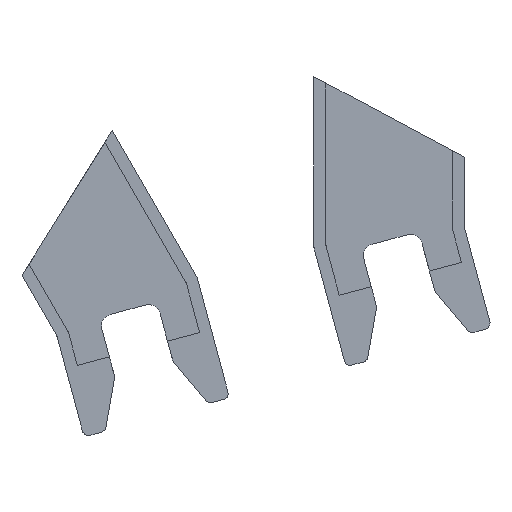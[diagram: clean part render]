
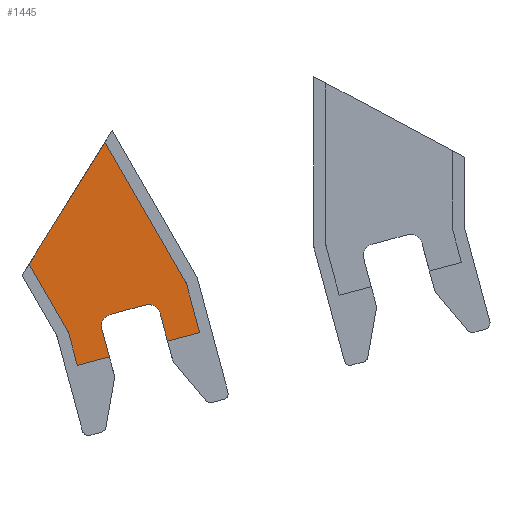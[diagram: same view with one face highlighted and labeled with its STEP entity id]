
A CAD part, front view. The second image highlights one B-rep face of the part: STEP entity #1445.
In plain terms, the highlighted planar face has unit normal (0, -1, 0).
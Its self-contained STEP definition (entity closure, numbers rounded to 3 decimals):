
#13 = LINE ( 'NONE', #1622, #1754 ) ;
#14 = LINE ( 'NONE', #745, #492 ) ;
#30 = CARTESIAN_POINT ( 'NONE',  ( -97.223, 0., -44.142 ) ) ;
#49 = DIRECTION ( 'NONE',  ( 0., 1., 0. ) ) ;
#50 = ORIENTED_EDGE ( 'NONE', *, *, #1344, .F. ) ;
#54 = DIRECTION ( 'NONE',  ( 0., -1., 0. ) ) ;
#100 = VERTEX_POINT ( 'NONE', #252 ) ;
#165 = VERTEX_POINT ( 'NONE', #1127 ) ;
#170 = VECTOR ( 'NONE', #1184, 1000. ) ;
#188 = EDGE_CURVE ( 'NONE', #603, #2137, #1066, .T. ) ;
#241 = LINE ( 'NONE', #472, #2150 ) ;
#252 = CARTESIAN_POINT ( 'NONE',  ( -92.148, 0., -34.104 ) ) ;
#276 = CARTESIAN_POINT ( 'NONE',  ( -93.114, 0., -34.362 ) ) ;
#282 = VERTEX_POINT ( 'NONE', #1970 ) ;
#326 = EDGE_LOOP ( 'NONE', ( #1001, #2156, #906, #614, #912, #440, #1083, #664, #2335, #375, #50, #1498, #1310, #1642 ) ) ;
#334 = CARTESIAN_POINT ( 'NONE',  ( -98.452, 0., -39.554 ) ) ;
#348 = LINE ( 'NONE', #1847, #1506 ) ;
#375 = ORIENTED_EDGE ( 'NONE', *, *, #1752, .F. ) ;
#395 = CARTESIAN_POINT ( 'NONE',  ( -97.223, 0., -44.142 ) ) ;
#398 = VERTEX_POINT ( 'NONE', #1108 ) ;
#418 = VERTEX_POINT ( 'NONE', #585 ) ;
#434 = EDGE_CURVE ( 'NONE', #282, #2137, #1500, .T. ) ;
#440 = ORIENTED_EDGE ( 'NONE', *, *, #188, .T. ) ;
#450 = CIRCLE ( 'NONE', #1501, 1. ) ;
#471 = EDGE_CURVE ( 'NONE', #2019, #165, #14, .T. ) ;
#472 = CARTESIAN_POINT ( 'NONE',  ( -105.682, 0., -10.594 ) ) ;
#492 = VECTOR ( 'NONE', #1859, 1000. ) ;
#585 = CARTESIAN_POINT ( 'NONE',  ( -95.291, 0., -43.624 ) ) ;
#603 = VERTEX_POINT ( 'NONE', #2082 ) ;
#608 = CARTESIAN_POINT ( 'NONE',  ( -98.452, 0., -39.554 ) ) ;
#610 = CARTESIAN_POINT ( 'NONE',  ( -105.682, 0., -10.594 ) ) ;
#613 = VECTOR ( 'NONE', #1867, 1000. ) ;
#614 = ORIENTED_EDGE ( 'NONE', *, *, #2313, .F. ) ;
#619 = EDGE_CURVE ( 'NONE', #100, #1522, #450, .T. ) ;
#624 = EDGE_CURVE ( 'NONE', #1973, #1522, #2263, .T. ) ;
#637 = CARTESIAN_POINT ( 'NONE',  ( -106.18, 0., -41.624 ) ) ;
#664 = ORIENTED_EDGE ( 'NONE', *, *, #1892, .F. ) ;
#679 = EDGE_CURVE ( 'NONE', #1495, #398, #1878, .T. ) ;
#737 = AXIS2_PLACEMENT_3D ( 'NONE', #2235, #49, #2054 ) ;
#745 = CARTESIAN_POINT ( 'NONE',  ( -106.18, 0., -41.624 ) ) ;
#748 = CARTESIAN_POINT ( 'NONE',  ( -104.765, 0., -39.175 ) ) ;
#753 = VECTOR ( 'NONE', #1870, 1000. ) ;
#761 = CARTESIAN_POINT ( 'NONE',  ( -111.751, 0., -42.082 ) ) ;
#763 = DIRECTION ( 'NONE',  ( -0.966, 0., -0.259 ) ) ;
#904 = DIRECTION ( 'NONE',  ( -0.5, 0., 0.866 ) ) ;
#906 = ORIENTED_EDGE ( 'NONE', *, *, #624, .F. ) ;
#912 = ORIENTED_EDGE ( 'NONE', *, *, #1967, .F. ) ;
#920 = VERTEX_POINT ( 'NONE', #2201 ) ;
#936 = CARTESIAN_POINT ( 'NONE',  ( -111.717, 0., -42.209 ) ) ;
#959 = CARTESIAN_POINT ( 'NONE',  ( -96.52, 0., -39.036 ) ) ;
#963 = LINE ( 'NONE', #395, #1129 ) ;
#988 = FACE_OUTER_BOUND ( 'NONE', #326, .T. ) ;
#1001 = ORIENTED_EDGE ( 'NONE', *, *, #2143, .F. ) ;
#1009 = CARTESIAN_POINT ( 'NONE',  ( -118.251, 0., -30.824 ) ) ;
#1041 = CIRCLE ( 'NONE', #1849, 2. ) ;
#1054 = EDGE_CURVE ( 'NONE', #418, #1495, #1436, .T. ) ;
#1066 = CIRCLE ( 'NONE', #737, 1. ) ;
#1083 = ORIENTED_EDGE ( 'NONE', *, *, #434, .F. ) ;
#1108 = CARTESIAN_POINT ( 'NONE',  ( -98.97, 0., -37.622 ) ) ;
#1127 = CARTESIAN_POINT ( 'NONE',  ( -104.95, 0., -46.213 ) ) ;
#1129 = VECTOR ( 'NONE', #763, 1000. ) ;
#1158 = DIRECTION ( 'NONE',  ( 0.5, 0., -0.866 ) ) ;
#1184 = DIRECTION ( 'NONE',  ( 0.5, 0., -0.866 ) ) ;
#1195 = DIRECTION ( 'NONE',  ( 0.528, 0., 0.849 ) ) ;
#1282 = CARTESIAN_POINT ( 'NONE',  ( -104.248, 0., -41.107 ) ) ;
#1310 = ORIENTED_EDGE ( 'NONE', *, *, #1054, .F. ) ;
#1334 = EDGE_CURVE ( 'NONE', #920, #418, #2036, .T. ) ;
#1340 = CARTESIAN_POINT ( 'NONE',  ( -92.248, 0., -33.862 ) ) ;
#1344 = EDGE_CURVE ( 'NONE', #398, #1822, #13, .T. ) ;
#1378 = AXIS2_PLACEMENT_3D ( 'NONE', #608, #54, #1158 ) ;
#1436 = LINE ( 'NONE', #1469, #1787 ) ;
#1445 = ADVANCED_FACE ( 'NONE', ( #988 ), #1896, .T. ) ;
#1464 = VECTOR ( 'NONE', #1636, 1000. ) ;
#1469 = CARTESIAN_POINT ( 'NONE',  ( -96.52, 0., -39.036 ) ) ;
#1495 = VERTEX_POINT ( 'NONE', #959 ) ;
#1498 = ORIENTED_EDGE ( 'NONE', *, *, #679, .F. ) ;
#1500 = LINE ( 'NONE', #761, #613 ) ;
#1501 = AXIS2_PLACEMENT_3D ( 'NONE', #276, #1712, #1538 ) ;
#1506 = VECTOR ( 'NONE', #2195, 1000. ) ;
#1522 = VERTEX_POINT ( 'NONE', #1340 ) ;
#1538 = DIRECTION ( 'NONE',  ( 0.5, 0., -0.866 ) ) ;
#1619 = DIRECTION ( 'NONE',  ( 0., -1., 0. ) ) ;
#1622 = CARTESIAN_POINT ( 'NONE',  ( -98.97, 0., -37.622 ) ) ;
#1636 = DIRECTION ( 'NONE',  ( -0.966, 0., -0.259 ) ) ;
#1642 = ORIENTED_EDGE ( 'NONE', *, *, #1334, .F. ) ;
#1697 = LINE ( 'NONE', #2083, #753 ) ;
#1712 = DIRECTION ( 'NONE',  ( 0., -1., 0. ) ) ;
#1735 = DIRECTION ( 'NONE',  ( 0., -1., 0. ) ) ;
#1752 = EDGE_CURVE ( 'NONE', #1822, #2019, #1041, .T. ) ;
#1754 = VECTOR ( 'NONE', #2023, 1000. ) ;
#1787 = VECTOR ( 'NONE', #1959, 1000. ) ;
#1795 = AXIS2_PLACEMENT_3D ( 'NONE', #334, #1735, #2296 ) ;
#1822 = VERTEX_POINT ( 'NONE', #748 ) ;
#1847 = CARTESIAN_POINT ( 'NONE',  ( -92.182, 0., -33.976 ) ) ;
#1849 = AXIS2_PLACEMENT_3D ( 'NONE', #1282, #1619, #904 ) ;
#1859 = DIRECTION ( 'NONE',  ( 0.259, 0., -0.966 ) ) ;
#1867 = DIRECTION ( 'NONE',  ( -0.259, 0., 0.966 ) ) ;
#1870 = DIRECTION ( 'NONE',  ( -0.5, 0., 0.866 ) ) ;
#1878 = CIRCLE ( 'NONE', #1795, 2. ) ;
#1892 = EDGE_CURVE ( 'NONE', #165, #282, #963, .T. ) ;
#1896 = PLANE ( 'NONE',  #1378 ) ;
#1959 = DIRECTION ( 'NONE',  ( -0.259, 0., 0.966 ) ) ;
#1967 = EDGE_CURVE ( 'NONE', #603, #2011, #1697, .T. ) ;
#1970 = CARTESIAN_POINT ( 'NONE',  ( -110.263, 0., -47.636 ) ) ;
#1973 = VERTEX_POINT ( 'NONE', #610 ) ;
#2011 = VERTEX_POINT ( 'NONE', #1009 ) ;
#2019 = VERTEX_POINT ( 'NONE', #637 ) ;
#2023 = DIRECTION ( 'NONE',  ( -0.966, 0., -0.259 ) ) ;
#2036 = LINE ( 'NONE', #30, #1464 ) ;
#2054 = DIRECTION ( 'NONE',  ( 0.5, 0., -0.866 ) ) ;
#2082 = CARTESIAN_POINT ( 'NONE',  ( -111.817, 0., -41.968 ) ) ;
#2083 = CARTESIAN_POINT ( 'NONE',  ( -118.251, 0., -30.824 ) ) ;
#2089 = CARTESIAN_POINT ( 'NONE',  ( -105.682, 0., -10.594 ) ) ;
#2137 = VERTEX_POINT ( 'NONE', #936 ) ;
#2143 = EDGE_CURVE ( 'NONE', #100, #920, #348, .T. ) ;
#2150 = VECTOR ( 'NONE', #1195, 1000. ) ;
#2156 = ORIENTED_EDGE ( 'NONE', *, *, #619, .T. ) ;
#2195 = DIRECTION ( 'NONE',  ( 0.259, 0., -0.966 ) ) ;
#2201 = CARTESIAN_POINT ( 'NONE',  ( -89.978, 0., -42.201 ) ) ;
#2235 = CARTESIAN_POINT ( 'NONE',  ( -112.683, 0., -42.468 ) ) ;
#2263 = LINE ( 'NONE', #2089, #170 ) ;
#2296 = DIRECTION ( 'NONE',  ( 0.5, 0., -0.866 ) ) ;
#2313 = EDGE_CURVE ( 'NONE', #2011, #1973, #241, .T. ) ;
#2335 = ORIENTED_EDGE ( 'NONE', *, *, #471, .F. ) ;
